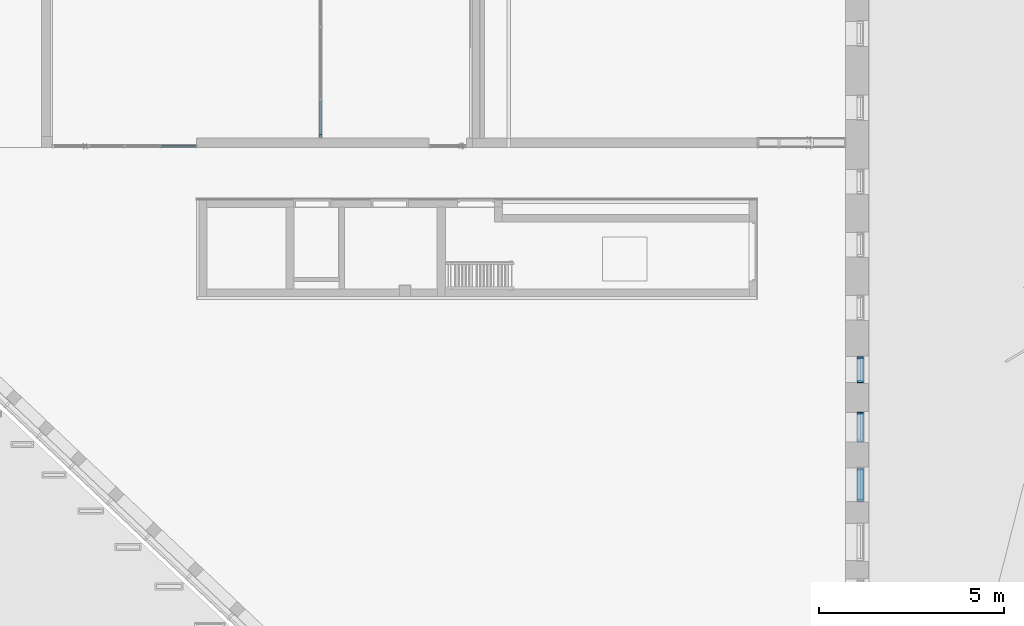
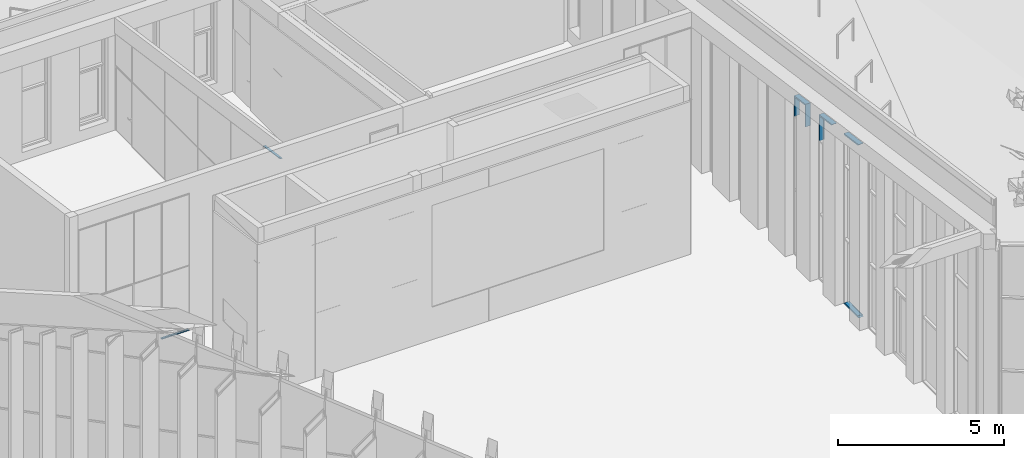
# One storey, part 89 of 246: 10 members, 5 elements without a shape of their own.
"""IFC2X3 building model written with IfcOpenShell, lengths in millimetres."""

from ifc_helpers import new_model, entity, si_unit, converted_unit, derived_unit, money_unit, direction, frame, origin_with_axes, place, context, subcontext, project, spatial, faceted_brep, material, material_list, type_object, element, aggregate, save


model = new_model("IFC2X3")

# Units and contexts
model_context = context("Model", 3, precision=0.01, world=origin_with_axes(), true_north=direction((0.0, 1.0)))
body_context = subcontext(model_context, "Body", "Model", "MODEL_VIEW")
ifc_project = project(units=[si_unit("LENGTHUNIT", "METRE", prefix="MILLI"), si_unit("AREAUNIT", "SQUARE_METRE"), si_unit("VOLUMEUNIT", "CUBIC_METRE"), converted_unit("PLANEANGLEUNIT", "DEGREE", entity("IfcPlaneAngleMeasure", 0.0174532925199), si_unit("PLANEANGLEUNIT", "RADIAN"), dimensions=[0, 0, 0, 0, 0, 0, 0]), si_unit("SOLIDANGLEUNIT", "STERADIAN"), money_unit("EUR"), converted_unit("TIMEUNIT", "Year", entity("IfcTimeMeasure", 31556926.0), si_unit("TIMEUNIT", "SECOND"), dimensions=[0, 0, 1, 0, 0, 0, 0]), si_unit("MASSUNIT", "GRAM", prefix="KILO"), si_unit("THERMODYNAMICTEMPERATUREUNIT", "DEGREE_CELSIUS"), si_unit("LUMINOUSINTENSITYUNIT", "LUMEN"), si_unit("ENERGYUNIT", "JOULE", prefix="MEGA"), derived_unit("THERMALCONDUCTANCEUNIT", [(si_unit("POWERUNIT", "WATT"), 1), (si_unit("LENGTHUNIT", "METRE"), -1), (si_unit("THERMODYNAMICTEMPERATUREUNIT", "KELVIN"), -1)]), derived_unit("SPECIFICHEATCAPACITYUNIT", [(si_unit("ENERGYUNIT", "JOULE"), 1), (si_unit("MASSUNIT", "GRAM", prefix="KILO"), -1), (si_unit("THERMODYNAMICTEMPERATUREUNIT", "KELVIN"), -1)]), derived_unit("MASSDENSITYUNIT", [(si_unit("MASSUNIT", "GRAM", prefix="KILO"), 1), (si_unit("VOLUMEUNIT", "CUBIC_METRE"), -1)])], contexts=[model_context])

# Site, building, storey
site_placement = place(None, origin_with_axes())
site = spatial("IfcSite", under=ifc_project, at=site_placement, Name="L.Koidula tn 11b", CompositionType="ELEMENT")
building_placement = place(site_placement, origin_with_axes())
building = spatial("IfcBuilding", under=site, at=building_placement, Name="Rakvere Riigigümnaasium", CompositionType="ELEMENT")
storey_placement = place(building_placement, origin_with_axes())
storey = spatial("IfcBuildingStorey", under=building, at=storey_placement, Name="1.korrus 0,00", CompositionType="ELEMENT", Elevation=0.0)

# Curtain wall, members
curtain_wall_type = type_object("IfcCurtainWallType", Name="Curtain Wall Type", PredefinedType="NOTDEFINED")
curtain_wall_1_placement = place(storey_placement, frame((47433.9999935, 52250.4459079, -7.88318499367e-05), z_axis=(0.0, 0.0, 1.0), x_axis=(1.0, 0.0, 0.0)))
curtain_wall_1 = element("IfcCurtainWall", 1, at=curtain_wall_1_placement, inside=storey, type_object=curtain_wall_type, Name="KLF-07-05")
ifc_material_1 = material(Name="Alumiiniumprofiil (RAL 7021)")
member_type_1 = type_object("IfcMemberType", Name="Boundary Frame 50 x 170", PredefinedType="MULLION")
member_1_placement = place(curtain_wall_1_placement, frame((0.0, 450.000093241, 0.0), z_axis=(0.0, -1.0, 0.0), x_axis=(0.0, 0.0, 1.0)))
member_1 = element("IfcMember", 2, at=member_1_placement, type_object=member_type_1, material=ifc_material_1, Name="KLF-07-73-Profiilid", ObjectType="MULLION", context=body_context, shape_type="Brep", body=[
    faceted_brep([(37.0, 26.0, 863.000050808), (50.0, 26.0, 850.000050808), (50.0, 124.0, 850.000050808), (0.0, 124.0, 900.000050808), (0.0, -46.0, 900.000050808), (50.0, -46.0, 850.000050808), (50.0, -26.0, 850.000050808), (37.0, -26.0, 863.000050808), (37.0, 26.0, 37.0000014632), (50.0, 26.0, 50.0000019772), (50.0, 124.0, 50.0000019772), (0.0, 124.0, 0.0), (0.0, -46.0, 0.0), (50.0, -46.0, 50.0000019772), (50.0, -26.0, 50.0000019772), (37.0, -26.0, 37.0000014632)], [[[0, 1, 2, 3, 4, 5, 6, 7]], [[0, 8, 9, 1]], [[9, 10, 2, 1]], [[2, 10, 11, 3]], [[3, 11, 12, 4]], [[4, 12, 13, 5]], [[6, 5, 13, 14]], [[14, 15, 7, 6]], [[7, 15, 8, 0]], [[8, 15, 14, 13, 12, 11, 10, 9]]]),
])
member_2_placement = place(curtain_wall_1_placement, frame((0.0, -449.999946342, 6392.97049304), z_axis=(0.0, 0.990016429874, -0.140952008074), x_axis=(0.0, -0.140952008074, -0.990016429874)))
member_2 = element("IfcMember", 3, at=member_2_placement, type_object=member_type_1, material=ifc_material_1, Name="KLF-07-77-Profiilid", ObjectType="MULLION", context=body_context, shape_type="Brep", body=[
    faceted_brep([(37.0, 26.0, 876.97039807), (50.0, 26.0, 865.690156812), (50.0, 124.0, 865.690156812), (0.0, 124.0, 909.075700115), (0.0, -46.0, 909.075700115), (50.0, -46.0, 865.690156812), (50.0, -26.0, 865.690156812), (37.0, -26.0, 876.97039807), (37.0, 26.0, 42.6409331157), (50.0, 26.0, 57.6228825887), (50.0, 124.0, 57.6228825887), (0.0, 124.0, 0.0), (0.0, -46.0, 0.0), (50.0, -46.0, 57.6228825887), (50.0, -26.0, 57.6228825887), (37.0, -26.0, 42.6409331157)], [[[0, 1, 2, 3, 4, 5, 6, 7]], [[0, 8, 9, 1]], [[9, 10, 2, 1]], [[2, 10, 11, 3]], [[3, 11, 12, 4]], [[4, 12, 13, 5]], [[6, 5, 13, 14]], [[14, 15, 7, 6]], [[7, 15, 8, 0]], [[8, 15, 14, 13, 12, 11, 10, 9]]]),
])
aggregate(curtain_wall_1, [member_1, member_2])

curtain_wall_2_placement = place(storey_placement, frame((47433.9999935, 53800.4459212, -2.62174737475e-05), z_axis=(0.0, 0.0, 1.0), x_axis=(1.0, 0.0, 0.0)))
curtain_wall_2 = element("IfcCurtainWall", 4, at=curtain_wall_2_placement, inside=storey, type_object=curtain_wall_type, Name="KLF-07-06")
member_3_placement = place(curtain_wall_2_placement, frame((0.0, 399.999920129, 6051.27413403), z_axis=(0.0, -2.44715995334e-08, -1.0), x_axis=(0.0, -1.0, 2.44715995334e-08)))
member_3 = element("IfcMember", 5, at=member_3_placement, type_object=member_type_1, material=ifc_material_1, Name="KLF-07-79-Profiilid", ObjectType="MULLION", context=body_context, shape_type="Brep", body=[
    faceted_brep([(36.9999767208, 26.0, 951.274110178), (49.9999767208, 26.0, 951.274110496), (49.9999767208, 124.0, 951.274110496), (-2.32791990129e-05, 124.0, 951.274109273), (-2.32791990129e-05, -46.0, 951.274109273), (49.9999767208, -46.0, 951.274110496), (49.9999767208, -26.0, 951.274110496), (36.9999767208, -26.0, 951.274110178), (36.9999992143, 26.0, 32.1053030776), (49.9999989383, 26.0, 43.3855446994), (49.9999989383, 124.0, 43.3855446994), (0.0, 124.0, 0.0), (0.0, -46.0, 0.0), (49.9999989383, -46.0, 43.3855446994), (49.9999989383, -26.0, 43.3855446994), (36.9999992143, -26.0, 32.1053030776)], [[[0, 1, 2, 3, 4, 5, 6, 7]], [[0, 8, 9, 1]], [[9, 10, 2, 1]], [[2, 10, 11, 3]], [[3, 11, 12, 4]], [[4, 12, 13, 5]], [[6, 5, 13, 14]], [[14, 15, 7, 6]], [[7, 15, 8, 0]], [[8, 15, 14, 13, 12, 11, 10, 9]]]),
])
member_4_placement = place(curtain_wall_2_placement, frame((0.0, -399.999901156, 6165.17282713), z_axis=(0.0, 0.99001643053, -0.140952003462), x_axis=(0.0, -0.140952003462, -0.99001643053)))
member_4 = element("IfcMember", 6, at=member_4_placement, type_object=member_type_1, material=ifc_material_1, Name="KLF-07-78-Profiilid", ObjectType="MULLION", context=body_context, shape_type="Brep", body=[
    faceted_brep([(37.0, 26.0, 775.961914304), (50.0, 26.0, 764.681673), (50.0, 124.0, 764.681673), (0.0, 124.0, 808.067216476), (0.0, -46.0, 808.067216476), (50.0, -46.0, 764.681673), (50.0, -26.0, 764.681673), (37.0, -26.0, 775.961914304), (37.0, 26.0, 42.6409329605), (50.0, 26.0, 57.622882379), (50.0, 124.0, 57.622882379), (0.0, 124.0, 0.0), (0.0, -46.0, 0.0), (50.0, -46.0, 57.622882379), (50.0, -26.0, 57.622882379), (37.0, -26.0, 42.6409329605)], [[[0, 1, 2, 3, 4, 5, 6, 7]], [[0, 8, 9, 1]], [[9, 10, 2, 1]], [[2, 10, 11, 3]], [[3, 11, 12, 4]], [[4, 12, 13, 5]], [[6, 5, 13, 14]], [[14, 15, 7, 6]], [[7, 15, 8, 0]], [[8, 15, 14, 13, 12, 11, 10, 9]]]),
])
aggregate(curtain_wall_2, [member_3, member_4])

curtain_wall_3_placement = place(storey_placement, frame((47433.9999935, 55350.4459233, 0.0), z_axis=(0.0, 0.0, 1.0), x_axis=(1.0, 0.0, 0.0)))
curtain_wall_3 = element("IfcCurtainWall", 7, at=curtain_wall_3_placement, inside=storey, type_object=curtain_wall_type, Name="KLF-07-07")
member_5_placement = place(curtain_wall_3_placement, frame((0.0, -349.999965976, 5100.0), z_axis=(0.0, 0.0, 1.0), x_axis=(0.0, 1.0, 0.0)))
member_5 = element("IfcMember", 8, at=member_5_placement, type_object=member_type_1, material=ifc_material_1, Name="KLF-07-77-Profiilid", ObjectType="MULLION", context=body_context, shape_type="Brep", body=[
    faceted_brep([(37.0, 26.0, 794.734364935), (50.0, 26.0, 779.752413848), (50.0, 124.0, 779.752413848), (0.0, 124.0, 837.375302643), (0.0, -46.0, 837.375302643), (50.0, -46.0, 779.752413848), (50.0, -26.0, 779.752413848), (37.0, -26.0, 794.734364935), (37.0, 26.0, -1.30958266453e-06), (50.0, 26.0, -1.30958266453e-06), (50.0, 124.0, -1.30958266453e-06), (0.0, 124.0, -1.30958266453e-06), (0.0, -46.0, -1.30958266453e-06), (50.0, -46.0, -1.30958266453e-06), (50.0, -26.0, -1.30958266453e-06), (37.0, -26.0, -1.30958266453e-06)], [[[0, 1, 2, 3, 4, 5, 6, 7]], [[0, 8, 9, 1]], [[9, 10, 2, 1]], [[10, 11, 3, 2]], [[11, 12, 4, 3]], [[12, 13, 5, 4]], [[6, 5, 13, 14]], [[14, 15, 7, 6]], [[7, 15, 8, 0]], [[8, 15, 14, 13, 12, 11, 10, 9]]]),
])
member_6_placement = place(curtain_wall_3_placement, frame((0.0, 350.000038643, 5837.7138426), z_axis=(0.0, -2.64216383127e-09, -1.0), x_axis=(0.0, -1.0, 2.64216383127e-09)))
member_6 = element("IfcMember", 9, at=member_6_placement, type_object=member_type_1, material=ifc_material_1, Name="KLF-07-79-Profiilid", ObjectType="MULLION", context=body_context, shape_type="Brep", body=[
    faceted_brep([(36.9999980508, 26.0, 737.71384276), (49.9999980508, 26.0, 737.713842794), (49.9999980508, 124.0, 737.713842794), (-1.94916083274e-06, 124.0, 737.713842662), (-1.94916083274e-06, -46.0, 737.713842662), (49.9999980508, -46.0, 737.713842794), (49.9999980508, -26.0, 737.713842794), (36.9999980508, -26.0, 737.71384276), (36.9999999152, 26.0, 32.1052978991), (49.9999998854, 26.0, 43.3855377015), (49.9999998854, 124.0, 43.3855377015), (0.0, 124.0, 0.0), (0.0, -46.0, 0.0), (49.9999998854, -46.0, 43.3855377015), (49.9999998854, -26.0, 43.3855377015), (36.9999999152, -26.0, 32.1052978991)], [[[0, 1, 2, 3, 4, 5, 6, 7]], [[0, 8, 9, 1]], [[9, 10, 2, 1]], [[2, 10, 11, 3]], [[3, 11, 12, 4]], [[4, 12, 13, 5]], [[6, 5, 13, 14]], [[14, 15, 7, 6]], [[7, 15, 8, 0]], [[8, 15, 14, 13, 12, 11, 10, 9]]]),
])
member_7_placement = place(curtain_wall_3_placement, frame((0.0, -349.999965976, 5937.37530264), z_axis=(0.0, 0.99001641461, -0.140952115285), x_axis=(0.0, -0.140952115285, -0.99001641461)))
member_7 = element("IfcMember", 10, at=member_7_placement, type_object=member_type_1, material=ifc_material_1, Name="KLF-07-78-Profiilid", ObjectType="MULLION", context=body_context, shape_type="Brep", body=[
    faceted_brep([(37.0, 26.0, 674.953690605), (50.0, 26.0, 663.673450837), (50.0, 124.0, 663.673450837), (0.0, 124.0, 707.058988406), (0.0, -46.0, 707.058988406), (50.0, -46.0, 663.673450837), (50.0, -26.0, 663.673450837), (37.0, -26.0, 674.953690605), (37.0, 26.0, 42.6409377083), (50.0, 26.0, 57.622888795), (50.0, 124.0, 57.622888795), (0.0, 124.0, 0.0), (0.0, -46.0, 0.0), (50.0, -46.0, 57.622888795), (50.0, -26.0, 57.622888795), (37.0, -26.0, 42.6409377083)], [[[0, 1, 2, 3, 4, 5, 6, 7]], [[0, 8, 9, 1]], [[9, 10, 2, 1]], [[2, 10, 11, 3]], [[3, 11, 12, 4]], [[4, 12, 13, 5]], [[6, 5, 13, 14]], [[14, 15, 7, 6]], [[7, 15, 8, 0]], [[8, 15, 14, 13, 12, 11, 10, 9]]]),
])
aggregate(curtain_wall_3, [member_5, member_6, member_7])

# Curtain wall, member
curtain_wall_4_placement = place(storey_placement, frame((26572.4999007, 61372.4546496, 0.0), z_axis=(0.0, 0.0, 1.0), x_axis=(1.0, 0.0, 0.0)))
curtain_wall_4 = element("IfcCurtainWall", 11, at=curtain_wall_4_placement, inside=storey, type_object=curtain_wall_type, Name="SKLF-01")
ifc_material_2 = material(Name="Klaasvill")
ifc_material_3 = material(Name="Teras RAL7012")
ifc_material_list = material_list([ifc_material_2, ifc_material_3])
member_type_2 = type_object("IfcMemberType", Name="Boundary Frame 30 x 42", PredefinedType="MULLION")
member_8_placement = place(curtain_wall_4_placement, frame((1945.0, 0.0, 0.0), z_axis=(1.0, 0.0, 0.0), x_axis=(0.0, 0.0, 1.0)))
member_8 = element("IfcMember", 12, at=member_8_placement, type_object=member_type_2, material=ifc_material_list, Name="SKLF-67-raam", ObjectType="MULLION", context=body_context, shape_type="Brep", body=[
    faceted_brep([(7.49999990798, 15.000000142, 0.0), (13.8499999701, 15.000000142, 0.0), (13.8499999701, 15.000000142, 958.640090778), (7.49999990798, 15.000000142, 964.99009084), (7.49999990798, 29.0161444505, 0.0), (13.8499999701, 29.0161444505, 0.0), (13.8499999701, 29.0161444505, 958.640090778), (7.49999990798, 29.0161444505, 964.99009084)], [[[0, 1, 2, 3]], [[0, 4, 5, 1]], [[1, 5, 6, 2]], [[3, 2, 6, 7]], [[4, 0, 3, 7]], [[5, 4, 7, 6]]]),
    faceted_brep([(24.987414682, 29.0161444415, 0.0), (25.004489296, 27.0307503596, 0.0), (25.004489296, 27.0307503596, 947.485601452), (24.987414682, 29.0161444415, 947.502676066), (28.5126239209, 29.0161444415, 0.0), (28.7655837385, 28.0385325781, 0.0), (28.4955493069, 27.0307503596, 0.0), (27.75780152, 26.2930025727, 0.0), (26.7500193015, 26.0229681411, 0.0), (25.742237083, 26.2930025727, 0.0), (25.742237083, 26.2930025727, 946.747853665), (26.7500193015, 26.0229681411, 945.740071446), (27.75780152, 26.2930025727, 944.732289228), (28.4955493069, 27.0307503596, 943.994541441), (28.7655837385, 28.0385325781, 943.724507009), (28.5126239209, 29.0161444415, 943.977466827)], [[[0, 1, 2, 3]], [[0, 4, 5, 6, 7, 8, 9, 1]], [[1, 9, 10, 2]], [[3, 2, 10, 11, 12, 13, 14, 15]], [[4, 0, 3, 15]], [[5, 4, 15, 14]], [[6, 5, 14, 13]], [[7, 6, 13, 12]], [[8, 7, 12, 11]], [[9, 8, 11, 10]]]),
    faceted_brep([(7.49999990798, -24.9999997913, 0.0), (7.49999990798, -39.0161445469, 0.0), (7.49999990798, -39.0161445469, 964.99009084), (7.49999990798, -24.9999997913, 964.99009084), (13.8499999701, -24.9999997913, 0.0), (13.8499999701, -39.0161445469, 0.0), (13.8499999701, -39.0161445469, 958.640090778), (13.8499999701, -24.9999997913, 958.640090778)], [[[0, 1, 2, 3]], [[0, 4, 5, 1]], [[1, 5, 6, 2]], [[3, 2, 6, 7]], [[4, 0, 3, 7]], [[5, 4, 7, 6]]]),
    faceted_brep([(25.004489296, -37.0307503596, 0.0), (24.987414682, -39.0161444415, 0.0), (24.987414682, -39.0161444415, 947.502676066), (25.004489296, -37.0307503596, 947.485601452), (25.742237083, -36.2930025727, 0.0), (26.7500193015, -36.0229681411, 0.0), (27.75780152, -36.2930025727, 0.0), (28.4955493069, -37.0307503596, 0.0), (28.7655837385, -38.0385325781, 0.0), (28.5126239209, -39.0161444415, 0.0), (28.5126239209, -39.0161444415, 943.977466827), (28.7655837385, -38.0385325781, 943.724507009), (28.4955493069, -37.0307503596, 943.994541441), (27.75780152, -36.2930025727, 944.732289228), (26.7500193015, -36.0229681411, 945.740071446), (25.742237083, -36.2930025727, 946.747853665)], [[[0, 1, 2, 3]], [[0, 4, 5, 6, 7, 8, 9, 1]], [[1, 9, 10, 2]], [[3, 2, 10, 11, 12, 13, 14, 15]], [[4, 0, 3, 15]], [[5, 4, 15, 14]], [[6, 5, 14, 13]], [[7, 6, 13, 12]], [[8, 7, 12, 11]], [[9, 8, 11, 10]]]),
    faceted_brep([(0.0, -22.0000000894, 0.0), (29.5999996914, -22.0000000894, 0.0), (29.5999996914, -22.0000000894, 942.890091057), (0.0, -22.0000000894, 972.490090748), (0.0, 12.0000000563, 0.0), (29.5999996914, 12.0000000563, 0.0), (1.9999999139, 10.0000001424, 0.0), (1.9999999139, -20.0000001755, 0.0), (18.7999996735, -20.0000001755, 0.0), (18.7999996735, 10.0000001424, 0.0), (29.5999996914, 12.0000000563, 942.890091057), (0.0, 12.0000000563, 972.490090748), (1.9999999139, 10.0000001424, 970.490090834), (18.7999996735, 10.0000001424, 953.690091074), (18.7999996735, -20.0000001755, 953.690091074), (1.9999999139, -20.0000001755, 970.490090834)], [[[0, 1, 2, 3]], [[0, 4, 5, 1], [6, 7, 8, 9]], [[1, 5, 10, 2]], [[3, 2, 10, 11], [12, 13, 14, 15]], [[4, 0, 3, 11]], [[5, 4, 11, 10]], [[7, 6, 12, 15]], [[8, 7, 15, 14]], [[9, 8, 14, 13]], [[6, 9, 13, 12]]]),
    faceted_brep([(0.0, 12.0, 0.0), (29.5999996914, 12.0000000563, 0.0), (29.5999996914, 12.0000000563, 942.890091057), (0.0, 12.0, 972.490090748), (0.0, 32.0, 0.0), (30.0000193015, 32.0, 0.0), (30.0000193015, 29.0161444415, 0.0), (28.5126239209, 29.0161444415, 0.0), (24.987414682, 29.0161444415, 0.0), (13.8499999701, 29.0161444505, 0.0), (7.49999999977, 29.0161444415, 0.0), (7.49999999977, 15.0, 0.0), (13.8499999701, 15.000000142, 0.0), (30.0000193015, 15.0, 0.0), (30.0000193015, 12.0, 0.0), (30.0000193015, 12.0, 942.490071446), (30.0000193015, 15.0, 942.490071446), (13.8499999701, 15.000000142, 958.640090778), (7.49999999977, 15.0, 964.990090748), (7.49999999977, 29.0161444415, 964.990090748), (13.8499999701, 29.0161444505, 958.640090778), (24.987414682, 29.0161444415, 947.502676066), (28.5126239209, 29.0161444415, 943.977466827), (30.0000193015, 29.0161444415, 942.490071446), (30.0000193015, 32.0, 942.490071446), (0.0, 32.0, 972.490090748)], [[[0, 1, 2, 3]], [[0, 4, 5, 6, 7, 8, 9, 10, 11, 12, 13, 14, 1]], [[1, 14, 15, 2]], [[3, 2, 15, 16, 17, 18, 19, 20, 21, 22, 23, 24, 25]], [[4, 0, 3, 25]], [[5, 4, 25, 24]], [[6, 5, 24, 23]], [[7, 6, 23, 22]], [[8, 7, 22, 21]], [[9, 8, 21, 20]], [[10, 9, 20, 19]], [[11, 10, 19, 18]], [[12, 11, 18, 17]], [[13, 12, 17, 16]], [[14, 13, 16, 15]]]),
    faceted_brep([(0.0, -22.0, 0.0), (0.0, -42.0, 0.0), (0.0, -42.0, 972.490090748), (0.0, -22.0, 972.490090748), (29.5999996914, -22.0000000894, 0.0), (30.0000193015, -22.0, 0.0), (30.0000193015, -25.0, 0.0), (13.8499999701, -24.9999997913, 0.0), (7.49999999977, -25.0, 0.0), (7.49999999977, -39.0161444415, 0.0), (13.8499999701, -39.0161445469, 0.0), (24.987414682, -39.0161444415, 0.0), (28.5126239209, -39.0161444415, 0.0), (30.0000193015, -39.0161444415, 0.0), (30.0000193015, -42.0, 0.0), (30.0000193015, -42.0, 942.490071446), (30.0000193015, -39.0161444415, 942.490071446), (28.5126239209, -39.0161444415, 943.977466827), (24.987414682, -39.0161444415, 947.502676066), (13.8499999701, -39.0161445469, 958.640090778), (7.49999999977, -39.0161444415, 964.990090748), (7.49999999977, -25.0, 964.990090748), (13.8499999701, -24.9999997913, 958.640090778), (30.0000193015, -25.0, 942.490071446), (30.0000193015, -22.0, 942.490071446), (29.5999996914, -22.0000000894, 942.890091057)], [[[0, 1, 2, 3]], [[0, 4, 5, 6, 7, 8, 9, 10, 11, 12, 13, 14, 1]], [[1, 14, 15, 2]], [[3, 2, 15, 16, 17, 18, 19, 20, 21, 22, 23, 24, 25]], [[4, 0, 3, 25]], [[5, 4, 25, 24]], [[6, 5, 24, 23]], [[7, 6, 23, 22]], [[8, 7, 22, 21]], [[9, 8, 21, 20]], [[10, 9, 20, 19]], [[11, 10, 19, 18]], [[12, 11, 18, 17]], [[13, 12, 17, 16]], [[14, 13, 16, 15]]]),
])
aggregate(curtain_wall_4, [member_8])

# Curtain wall, members
curtain_wall_5_placement = place(storey_placement, frame((32835.0202258, 67589.2016838, 0.0), z_axis=(0.0, 0.0, 1.0), x_axis=(1.0, 0.0, 0.0)))
curtain_wall_5 = element("IfcCurtainWall", 13, at=curtain_wall_5_placement, inside=storey, type_object=curtain_wall_type, Name="SKLF-02")
member_9_placement = place(curtain_wall_5_placement, frame((0.0, -5998.75, 5015.00003606), z_axis=(0.0, 0.99001957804, -0.140929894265), x_axis=(0.0, -0.140929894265, -0.99001957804)))
member_9 = element("IfcMember", 14, at=member_9_placement, type_object=member_type_2, material=ifc_material_list, Name="SKLF-12-raam", ObjectType="MULLION", context=body_context, shape_type="Brep", body=[
    faceted_brep([(13.8499999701, 15.000000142, 15.9611782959), (13.8499999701, 15.000000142, 106.436210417), (7.49999990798, 15.000000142, 106.436210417), (7.49999990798, 15.000000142, 8.64323725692), (13.8499999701, 29.0161444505, 15.9611782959), (13.8499999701, 29.0161444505, 106.436210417), (7.49999990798, 29.0161444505, 106.436210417), (7.49999990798, 29.0161444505, 8.64323725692)], [[[0, 1, 2, 3]], [[4, 5, 1, 0]], [[2, 1, 5, 6]], [[3, 2, 6, 7]], [[3, 7, 4, 0]], [[7, 6, 5, 4]]]),
    faceted_brep([(25.004489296, 27.0307503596, 28.8159648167), (25.004489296, 27.0307503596, 106.436210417), (24.987414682, 29.0161444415, 106.436210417), (24.987414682, 29.0161444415, 28.7962874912), (25.742237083, 26.2930025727, 29.6661687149), (25.742237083, 26.2930025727, 106.436210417), (26.7500193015, 26.0229681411, 106.436210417), (27.75780152, 26.2930025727, 106.436210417), (28.4955493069, 27.0307503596, 106.436210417), (28.7655837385, 28.0385325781, 106.436210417), (28.5126239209, 29.0161444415, 106.436210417), (28.5126239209, 29.0161444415, 32.8588501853), (28.7655837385, 28.0385325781, 33.1503690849), (28.4955493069, 27.0307503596, 32.8391728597), (27.75780152, 26.2930025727, 31.9889689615), (26.7500193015, 26.0229681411, 30.8275688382)], [[[0, 1, 2, 3]], [[4, 5, 1, 0]], [[2, 1, 5, 6, 7, 8, 9, 10]], [[3, 2, 10, 11]], [[3, 11, 12, 13, 14, 15, 4, 0]], [[15, 6, 5, 4]], [[14, 7, 6, 15]], [[13, 8, 7, 14]], [[12, 9, 8, 13]], [[11, 10, 9, 12]]]),
    faceted_brep([(7.49999990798, -39.0161445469, 8.64323725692), (7.49999990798, -39.0161445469, 106.436210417), (7.49999990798, -24.9999997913, 106.436210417), (7.49999990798, -24.9999997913, 8.64323725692), (13.8499999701, -39.0161445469, 15.9611782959), (13.8499999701, -39.0161445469, 106.436210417), (13.8499999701, -24.9999997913, 106.436210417), (13.8499999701, -24.9999997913, 15.9611782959)], [[[0, 1, 2, 3]], [[4, 5, 1, 0]], [[2, 1, 5, 6]], [[3, 2, 6, 7]], [[3, 7, 4, 0]], [[7, 6, 5, 4]]]),
    faceted_brep([(24.987414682, -39.0161444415, 28.7962874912), (24.987414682, -39.0161444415, 106.436210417), (25.004489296, -37.0307503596, 106.436210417), (25.004489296, -37.0307503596, 28.8159648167), (28.5126239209, -39.0161444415, 32.8588501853), (28.5126239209, -39.0161444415, 106.436210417), (28.7655837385, -38.0385325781, 106.436210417), (28.4955493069, -37.0307503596, 106.436210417), (27.75780152, -36.2930025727, 106.436210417), (26.7500193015, -36.0229681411, 106.436210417), (25.742237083, -36.2930025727, 106.436210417), (25.742237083, -36.2930025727, 29.6661687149), (26.7500193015, -36.0229681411, 30.8275688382), (27.75780152, -36.2930025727, 31.9889689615), (28.4955493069, -37.0307503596, 32.8391728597), (28.7655837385, -38.0385325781, 33.1503690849)], [[[0, 1, 2, 3]], [[4, 5, 1, 0]], [[2, 1, 5, 6, 7, 8, 9, 10]], [[3, 2, 10, 11]], [[3, 11, 12, 13, 14, 15, 4, 0]], [[15, 6, 5, 4]], [[14, 7, 6, 15]], [[13, 8, 7, 14]], [[12, 9, 8, 13]], [[11, 10, 9, 12]]]),
    faceted_brep([(29.5999996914, -22.0000000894, 34.1119764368), (29.5999996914, -22.0000000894, 106.436210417), (0.0, -22.0000000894, 106.436210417), (0.0, -22.0000000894, 0.0), (29.5999996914, 12.0000000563, 34.1119764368), (29.5999996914, 12.0000000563, 106.436210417), (0.0, 12.0000000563, 106.436210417), (1.9999999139, 10.0000001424, 106.436210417), (18.7999996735, 10.0000001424, 106.436210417), (18.7999996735, -20.0000001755, 106.436210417), (1.9999999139, -20.0000001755, 106.436210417), (0.0, 12.0000000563, 0.0), (1.9999999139, 10.0000001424, 2.30486319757), (1.9999999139, -20.0000001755, 2.30486319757), (18.7999996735, -20.0000001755, 21.6657146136), (18.7999996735, 10.0000001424, 21.6657146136)], [[[0, 1, 2, 3]], [[4, 5, 1, 0]], [[2, 1, 5, 6], [7, 8, 9, 10]], [[3, 2, 6, 11]], [[3, 11, 4, 0], [12, 13, 14, 15]], [[11, 6, 5, 4]], [[15, 8, 7, 12]], [[14, 9, 8, 15]], [[13, 10, 9, 14]], [[12, 7, 10, 13]]]),
    faceted_brep([(29.5999996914, 12.0000000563, 34.1119764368), (29.5999996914, 12.0000000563, 106.436210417), (0.0, 12.0, 106.436210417), (0.0, 12.0, 0.0), (30.0000193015, 12.0, 34.5729716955), (30.0000193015, 12.0, 106.436210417), (30.0000193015, 15.0, 106.436210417), (13.8499999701, 15.000000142, 106.436210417), (7.49999999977, 15.0, 106.436210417), (7.49999999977, 29.0161444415, 106.436210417), (13.8499999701, 29.0161444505, 106.436210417), (24.987414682, 29.0161444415, 106.436210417), (28.5126239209, 29.0161444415, 106.436210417), (30.0000193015, 29.0161444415, 106.436210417), (30.0000193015, 32.0, 106.436210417), (0.0, 32.0, 106.436210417), (0.0, 32.0, 0.0), (30.0000193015, 32.0, 34.5729716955), (30.0000193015, 29.0161444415, 34.5729716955), (28.5126239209, 29.0161444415, 32.8588501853), (24.987414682, 29.0161444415, 28.7962874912), (13.8499999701, 29.0161444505, 15.9611782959), (7.49999999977, 29.0161444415, 8.6432373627), (7.49999999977, 15.0, 8.6432373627), (13.8499999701, 15.000000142, 15.9611782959), (30.0000193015, 15.0, 34.5729716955)], [[[0, 1, 2, 3]], [[4, 5, 1, 0]], [[2, 1, 5, 6, 7, 8, 9, 10, 11, 12, 13, 14, 15]], [[3, 2, 15, 16]], [[3, 16, 17, 18, 19, 20, 21, 22, 23, 24, 25, 4, 0]], [[25, 6, 5, 4]], [[24, 7, 6, 25]], [[23, 8, 7, 24]], [[22, 9, 8, 23]], [[21, 10, 9, 22]], [[20, 11, 10, 21]], [[19, 12, 11, 20]], [[18, 13, 12, 19]], [[17, 14, 13, 18]], [[16, 15, 14, 17]]]),
    faceted_brep([(0.0, -42.0, 0.0), (0.0, -42.0, 106.436210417), (0.0, -22.0, 106.436210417), (0.0, -22.0, 0.0), (30.0000193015, -42.0, 34.5729716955), (30.0000193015, -42.0, 106.436210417), (30.0000193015, -39.0161444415, 106.436210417), (28.5126239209, -39.0161444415, 106.436210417), (24.987414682, -39.0161444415, 106.436210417), (13.8499999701, -39.0161445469, 106.436210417), (7.49999999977, -39.0161444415, 106.436210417), (7.49999999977, -25.0, 106.436210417), (13.8499999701, -24.9999997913, 106.436210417), (30.0000193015, -25.0, 106.436210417), (30.0000193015, -22.0, 106.436210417), (29.5999996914, -22.0000000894, 106.436210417), (29.5999996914, -22.0000000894, 34.1119764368), (30.0000193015, -22.0, 34.5729716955), (30.0000193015, -25.0, 34.5729716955), (13.8499999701, -24.9999997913, 15.9611782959), (7.49999999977, -25.0, 8.6432373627), (7.49999999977, -39.0161444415, 8.6432373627), (13.8499999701, -39.0161445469, 15.9611782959), (24.987414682, -39.0161444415, 28.7962874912), (28.5126239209, -39.0161444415, 32.8588501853), (30.0000193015, -39.0161444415, 34.5729716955)], [[[0, 1, 2, 3]], [[4, 5, 1, 0]], [[2, 1, 5, 6, 7, 8, 9, 10, 11, 12, 13, 14, 15]], [[3, 2, 15, 16]], [[3, 16, 17, 18, 19, 20, 21, 22, 23, 24, 25, 4, 0]], [[25, 6, 5, 4]], [[24, 7, 6, 25]], [[23, 8, 7, 24]], [[22, 9, 8, 23]], [[21, 10, 9, 22]], [[20, 11, 10, 21]], [[19, 12, 11, 20]], [[18, 13, 12, 19]], [[17, 14, 13, 18]], [[16, 15, 14, 17]]]),
])
member_10_placement = place(curtain_wall_5_placement, frame((0.0, -5893.3761228, 5000.0), z_axis=(0.0, 0.990019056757, -0.140933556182), x_axis=(0.0, -0.140933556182, -0.990019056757)))
member_10 = element("IfcMember", 15, at=member_10_placement, type_object=member_type_2, material=ifc_material_list, Name="SKLF-13-raam", ObjectType="MULLION", context=body_context, shape_type="Brep", body=[
    faceted_brep([(7.49999990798, 15.000000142, -5.54825442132e-05), (13.8499999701, 15.000000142, -5.54825442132e-05), (13.8499999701, 15.000000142, 933.94780435), (7.49999990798, 15.000000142, 933.94780435), (7.49999990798, 29.0161444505, -5.54825442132e-05), (13.8499999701, 29.0161444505, -5.54825442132e-05), (13.8499999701, 29.0161444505, 933.94780435), (7.49999990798, 29.0161444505, 933.94780435)], [[[0, 1, 2, 3]], [[0, 4, 5, 1]], [[1, 5, 6, 2]], [[3, 2, 6, 7]], [[4, 0, 3, 7]], [[5, 4, 7, 6]]]),
    faceted_brep([(24.987414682, 29.0161444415, -5.54825442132e-05), (25.004489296, 27.0307503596, -5.54825442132e-05), (25.004489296, 27.0307503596, 933.94780435), (24.987414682, 29.0161444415, 933.94780435), (28.5126239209, 29.0161444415, -5.54825442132e-05), (28.7655837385, 28.0385325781, -5.54825442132e-05), (28.4955493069, 27.0307503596, -5.54825442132e-05), (27.75780152, 26.2930025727, -5.54825442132e-05), (26.7500193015, 26.0229681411, -5.54825442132e-05), (25.742237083, 26.2930025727, -5.54825442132e-05), (25.742237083, 26.2930025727, 933.94780435), (26.7500193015, 26.0229681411, 933.94780435), (27.75780152, 26.2930025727, 933.94780435), (28.4955493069, 27.0307503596, 933.94780435), (28.7655837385, 28.0385325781, 933.94780435), (28.5126239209, 29.0161444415, 933.94780435)], [[[0, 1, 2, 3]], [[0, 4, 5, 6, 7, 8, 9, 1]], [[1, 9, 10, 2]], [[3, 2, 10, 11, 12, 13, 14, 15]], [[4, 0, 3, 15]], [[5, 4, 15, 14]], [[6, 5, 14, 13]], [[7, 6, 13, 12]], [[8, 7, 12, 11]], [[9, 8, 11, 10]]]),
    faceted_brep([(7.49999990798, -24.9999997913, -5.54825442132e-05), (7.49999990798, -39.0161445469, -5.54825442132e-05), (7.49999990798, -39.0161445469, 933.94780435), (7.49999990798, -24.9999997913, 933.94780435), (13.8499999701, -24.9999997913, -5.54825442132e-05), (13.8499999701, -39.0161445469, -5.54825442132e-05), (13.8499999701, -39.0161445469, 933.94780435), (13.8499999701, -24.9999997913, 933.94780435)], [[[0, 1, 2, 3]], [[0, 4, 5, 1]], [[1, 5, 6, 2]], [[3, 2, 6, 7]], [[4, 0, 3, 7]], [[5, 4, 7, 6]]]),
    faceted_brep([(25.004489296, -37.0307503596, -5.54825442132e-05), (24.987414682, -39.0161444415, -5.54825442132e-05), (24.987414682, -39.0161444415, 933.94780435), (25.004489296, -37.0307503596, 933.94780435), (25.742237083, -36.2930025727, -5.54825442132e-05), (26.7500193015, -36.0229681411, -5.54825442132e-05), (27.75780152, -36.2930025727, -5.54825442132e-05), (28.4955493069, -37.0307503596, -5.54825442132e-05), (28.7655837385, -38.0385325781, -5.54825442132e-05), (28.5126239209, -39.0161444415, -5.54825442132e-05), (28.5126239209, -39.0161444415, 933.94780435), (28.7655837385, -38.0385325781, 933.94780435), (28.4955493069, -37.0307503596, 933.94780435), (27.75780152, -36.2930025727, 933.94780435), (26.7500193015, -36.0229681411, 933.94780435), (25.742237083, -36.2930025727, 933.94780435)], [[[0, 1, 2, 3]], [[0, 4, 5, 6, 7, 8, 9, 1]], [[1, 9, 10, 2]], [[3, 2, 10, 11, 12, 13, 14, 15]], [[4, 0, 3, 15]], [[5, 4, 15, 14]], [[6, 5, 14, 13]], [[7, 6, 13, 12]], [[8, 7, 12, 11]], [[9, 8, 11, 10]]]),
    faceted_brep([(0.0, -22.0000000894, -5.54825442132e-05), (29.5999996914, -22.0000000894, -5.54825442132e-05), (29.5999996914, -22.0000000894, 933.94780435), (0.0, -22.0000000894, 933.94780435), (0.0, 12.0000000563, -5.54825442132e-05), (29.5999996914, 12.0000000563, -5.54825442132e-05), (1.9999999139, 10.0000001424, -5.54825442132e-05), (1.9999999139, -20.0000001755, -5.54825442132e-05), (18.7999996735, -20.0000001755, -5.54825442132e-05), (18.7999996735, 10.0000001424, -5.54825442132e-05), (29.5999996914, 12.0000000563, 933.94780435), (0.0, 12.0000000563, 933.94780435), (1.9999999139, 10.0000001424, 933.94780435), (18.7999996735, 10.0000001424, 933.94780435), (18.7999996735, -20.0000001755, 933.94780435), (1.9999999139, -20.0000001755, 933.94780435)], [[[0, 1, 2, 3]], [[0, 4, 5, 1], [6, 7, 8, 9]], [[1, 5, 10, 2]], [[3, 2, 10, 11], [12, 13, 14, 15]], [[4, 0, 3, 11]], [[5, 4, 11, 10]], [[7, 6, 12, 15]], [[8, 7, 15, 14]], [[9, 8, 14, 13]], [[6, 9, 13, 12]]]),
    faceted_brep([(0.0, 12.0, -5.54825442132e-05), (29.5999996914, 12.0000000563, -5.54825442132e-05), (29.5999996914, 12.0000000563, 933.94780435), (0.0, 12.0, 933.94780435), (0.0, 32.0, -5.54825442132e-05), (30.0000193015, 32.0, -5.54825442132e-05), (30.0000193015, 29.0161444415, -5.54825442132e-05), (28.5126239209, 29.0161444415, -5.54825442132e-05), (24.987414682, 29.0161444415, -5.54825442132e-05), (13.8499999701, 29.0161444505, -5.54825442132e-05), (7.49999999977, 29.0161444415, -5.54825442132e-05), (7.49999999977, 15.0, -5.54825442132e-05), (13.8499999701, 15.000000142, -5.54825442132e-05), (30.0000193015, 15.0, -5.54825442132e-05), (30.0000193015, 12.0, -5.54825442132e-05), (30.0000193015, 12.0, 933.94780435), (30.0000193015, 15.0, 933.94780435), (13.8499999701, 15.000000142, 933.94780435), (7.49999999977, 15.0, 933.94780435), (7.49999999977, 29.0161444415, 933.94780435), (13.8499999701, 29.0161444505, 933.94780435), (24.987414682, 29.0161444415, 933.94780435), (28.5126239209, 29.0161444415, 933.94780435), (30.0000193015, 29.0161444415, 933.94780435), (30.0000193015, 32.0, 933.94780435), (0.0, 32.0, 933.94780435)], [[[0, 1, 2, 3]], [[0, 4, 5, 6, 7, 8, 9, 10, 11, 12, 13, 14, 1]], [[1, 14, 15, 2]], [[3, 2, 15, 16, 17, 18, 19, 20, 21, 22, 23, 24, 25]], [[4, 0, 3, 25]], [[5, 4, 25, 24]], [[6, 5, 24, 23]], [[7, 6, 23, 22]], [[8, 7, 22, 21]], [[9, 8, 21, 20]], [[10, 9, 20, 19]], [[11, 10, 19, 18]], [[12, 11, 18, 17]], [[13, 12, 17, 16]], [[14, 13, 16, 15]]]),
    faceted_brep([(0.0, -22.0, -5.54825442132e-05), (0.0, -42.0, -5.54825442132e-05), (0.0, -42.0, 933.94780435), (0.0, -22.0, 933.94780435), (29.5999996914, -22.0000000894, -5.54825442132e-05), (30.0000193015, -22.0, -5.54825442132e-05), (30.0000193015, -25.0, -5.54825442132e-05), (13.8499999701, -24.9999997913, -5.54825442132e-05), (7.49999999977, -25.0, -5.54825442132e-05), (7.49999999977, -39.0161444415, -5.54825442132e-05), (13.8499999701, -39.0161445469, -5.54825442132e-05), (24.987414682, -39.0161444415, -5.54825442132e-05), (28.5126239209, -39.0161444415, -5.54825442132e-05), (30.0000193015, -39.0161444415, -5.54825442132e-05), (30.0000193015, -42.0, -5.54825442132e-05), (30.0000193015, -42.0, 933.94780435), (30.0000193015, -39.0161444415, 933.94780435), (28.5126239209, -39.0161444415, 933.94780435), (24.987414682, -39.0161444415, 933.94780435), (13.8499999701, -39.0161445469, 933.94780435), (7.49999999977, -39.0161444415, 933.94780435), (7.49999999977, -25.0, 933.94780435), (13.8499999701, -24.9999997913, 933.94780435), (30.0000193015, -25.0, 933.94780435), (30.0000193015, -22.0, 933.94780435), (29.5999996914, -22.0000000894, 933.94780435)], [[[0, 1, 2, 3]], [[0, 4, 5, 6, 7, 8, 9, 10, 11, 12, 13, 14, 1]], [[1, 14, 15, 2]], [[3, 2, 15, 16, 17, 18, 19, 20, 21, 22, 23, 24, 25]], [[4, 0, 3, 25]], [[5, 4, 25, 24]], [[6, 5, 24, 23]], [[7, 6, 23, 22]], [[8, 7, 22, 21]], [[9, 8, 21, 20]], [[10, 9, 20, 19]], [[11, 10, 19, 18]], [[12, 11, 18, 17]], [[13, 12, 17, 16]], [[14, 13, 16, 15]]]),
])
aggregate(curtain_wall_5, [member_9, member_10])

save(model, "model.ifc")
